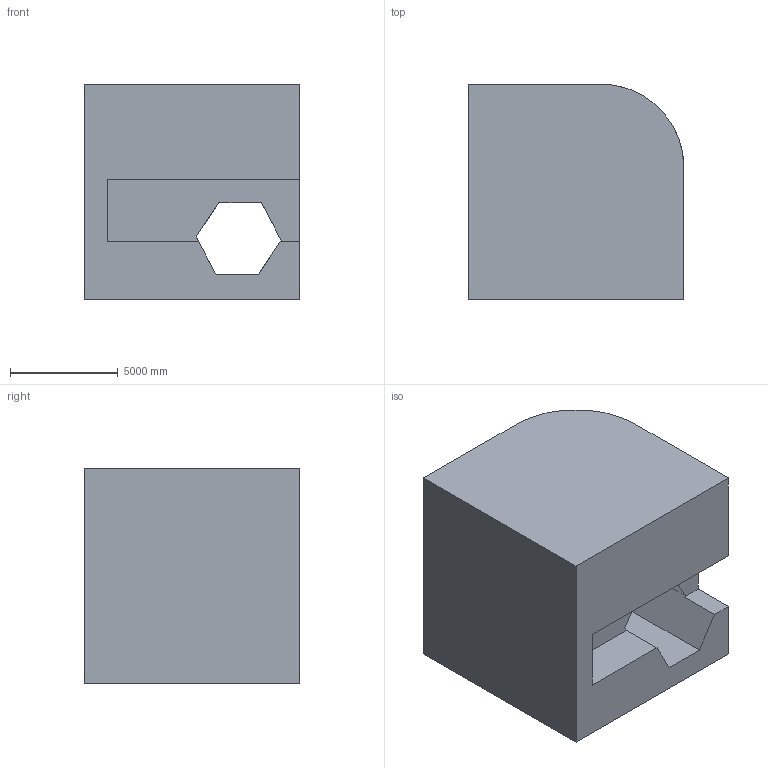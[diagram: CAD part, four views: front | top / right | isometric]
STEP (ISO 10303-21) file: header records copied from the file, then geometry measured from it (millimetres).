
FILE_DESCRIPTION (( 'STEP AP203' ), '1' );
FILE_NAME ('305.STEP', '2022-07-28T14:16:36', ( 'user' ), ( '' ), 'SwSTEP 2.0', 'SolidWorks 2021', '' );
FILE_SCHEMA (( 'CONFIG_CONTROL_DESIGN' ));
Length unit declared in the file: centimetre
Products named in the file (1): 305
Bounding box: 10000 x 10000 x 10000 mm (x, y, z)
Volume: 815606823089.3 mm3; surface area: 677718355.3 mm2
Topology: 1 solids, 1 shells, 22 faces, 72 edges, 48 vertices
Faces by surface type: plane 19, cylinder 3
Entity records: 948 total; most frequent: CARTESIAN_POINT 239, ORIENTED_EDGE 144, DIRECTION 120, EDGE_CURVE 72, VECTOR 58, LINE 58, VERTEX_POINT 48, AXIS2_PLACEMENT_3D 31
